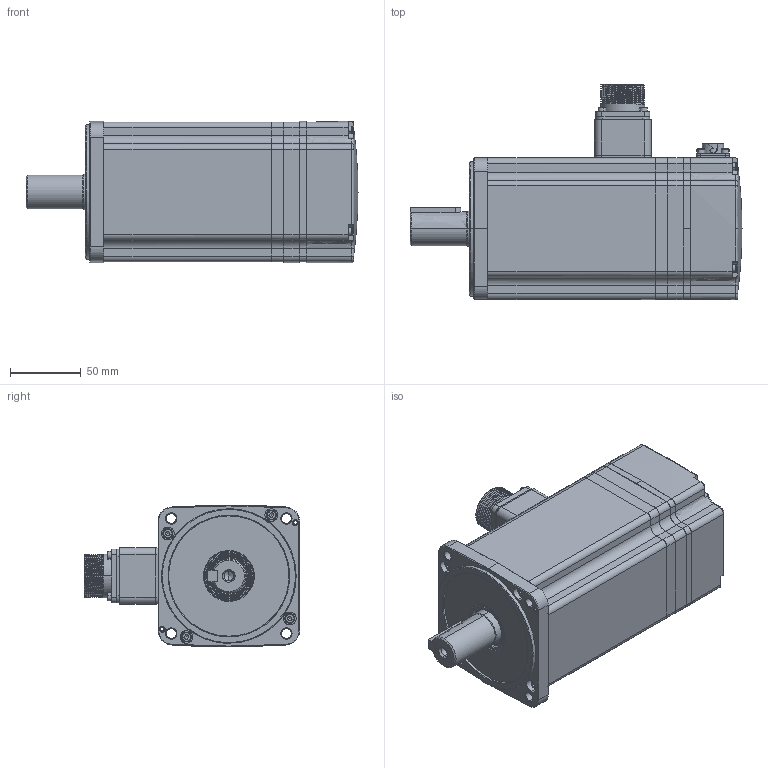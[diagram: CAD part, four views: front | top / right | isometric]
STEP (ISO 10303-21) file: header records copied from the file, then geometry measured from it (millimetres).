
FILE_DESCRIPTION (( 'STEP AP214' ), '1' );
FILE_NAME ('EM3A-15AFA224.STEP', '2020-04-08T04:59:16', ( '' ), ( '' ), 'SwSTEP 2.0', 'SolidWorks 2018', '' );
FILE_SCHEMA (( 'AUTOMOTIVE_DESIGN' ));
Length unit declared in the file: millimetre
Products named in the file (49): hexagon socket head cap screws gb_GB_FASTENER_SCREWS_HSHCS M3X12-NHDA.IGS; hexagon socket head cap screws gb_GB_FASTENER_SCREWS_HSHCS M4X20-NHDA.IGS; 葩璃 脣釱  HMS3102E20-18P[L]^EM3A-15AFA224.IGS; 复件 EM3A20A-132-A-S（隔热件）^EM3A-15AFA224.IGS; 复件 EM3A15A-210-A-S（机壳）^EM3A-15AFA224.IGS; 葩璃 EMG10A-270-B(萇埭竘盄碟)^EM3A-15AFA224.IGS; 复件 EM3A20A-130-A-S（后端盖）^EM3A-15AFA224.IGS; 复件 EMG10A-280-B（电源引线垫）^EM3A-15AFA224.IGS; 复件 EM3A15A-310-A1-S（轴）^EM3A-15AFA224.IGS; 复件 10产品装配^复件 插座  SC-CMV1-R10P_EM3A-15AFA224.IGS; 复件 EM3A20A-120-A-S（前端盖）^EM3A-15AFA224.IGS; 复件 10产品装配_1^复件 插座  SC-CMV1-R10P_EM3A-15AFA224.IGS; 葩璃 蚐猾 ^EM3A-15AFA224.IGS; EM3A-15AFA224; 复件 EM3A15A-410-A-S（编码器罩）^EM3A-15AFA224.IGS; 复件 半圆头普通平键  C8×36^EM3A-15AFA224.IGS; EM3A-15AFA224.IGS; 复件 EM3A20A-133-A-S（编码器底座）^EM3A-15AFA224.IGS; hexagon socket head cap screws gb_GB_FASTENER_SCREWS_HSHCS M3X25-NHDA.IGS
Assembly tree (31 placements, depth 3):
  hexagon socket head cap screws gb_GB_FASTENER_SCREWS_HSHCS M3X12-NHDA.IGS
  hexagon socket head cap screws gb_GB_FASTENER_SCREWS_HSHCS M3X12-NHDA.IGS
  复件 EM3A20A-132-A-S（隔热件）^EM3A-15AFA224.IGS
  复件 EM3A15A-210-A-S（机壳）^EM3A-15AFA224.IGS
  hexagon socket head cap screws gb_GB_FASTENER_SCREWS_HSHCS M3X12-NHDA.IGS
Bounding box: 234.5 x 152.05 x 100 mm (x, y, z)
Volume: 530965.7 mm3; surface area: 295048.1 mm2
Topology: 27 solids, 44 shells, 1922 faces, 4812 edges, 3038 vertices
Faces by surface type: bspline 1922
Entity records: 74368 total; most frequent: CARTESIAN_POINT 46428, ORIENTED_EDGE 7944, EDGE_CURVE 4024, B_SPLINE_CURVE_WITH_KNOTS 2907, VERTEX_POINT 2609, EDGE_LOOP 1926, FACE_OUTER_BOUND 1597, ADVANCED_FACE 1597
